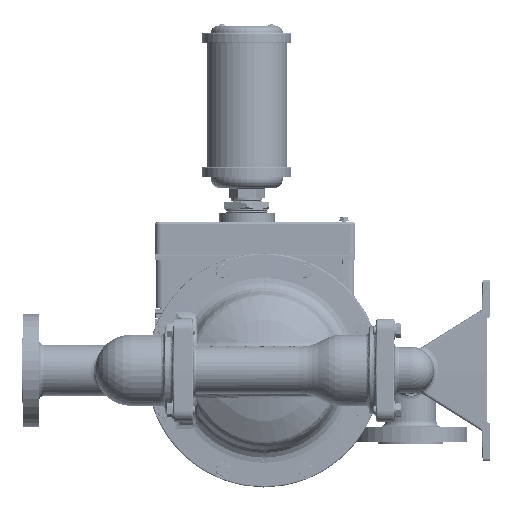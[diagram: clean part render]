
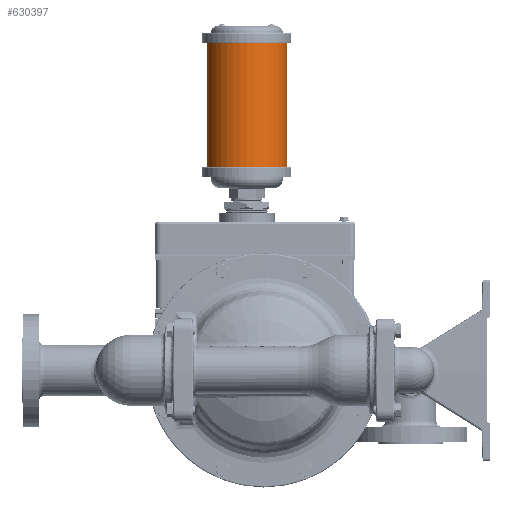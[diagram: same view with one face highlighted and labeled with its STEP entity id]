
A CAD part, left-side view. The second image highlights one B-rep face of the part: STEP entity #630397.
In plain terms, the highlighted cylindrical face has radius 45.339 mm (diameter 90.678 mm), a partial arc.
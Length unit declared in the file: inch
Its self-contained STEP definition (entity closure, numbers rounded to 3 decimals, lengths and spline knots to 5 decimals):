
#109265=DIRECTION('',(0.,0.,1.));
#109266=VECTOR('',#109265,5.5);
#109267=CARTESIAN_POINT('',(0.,2.535,8.983));
#109268=LINE('',#109267,#109266);
#109269=DIRECTION('',(0.,0.,1.));
#109270=VECTOR('',#109269,5.5);
#109271=CARTESIAN_POINT('',(0.,-1.035,8.983));
#109272=LINE('',#109271,#109270);
#109273=CARTESIAN_POINT('',(0.,0.75,8.983));
#109274=DIRECTION('',(0.,0.,1.));
#109275=DIRECTION('',(0.,1.,0.));
#109276=AXIS2_PLACEMENT_3D('',#109273,#109274,#109275);
#109298=CARTESIAN_POINT('',(0.,0.75,14.483));
#109299=DIRECTION('',(0.,0.,1.));
#109300=DIRECTION('',(0.,1.,0.));
#109301=AXIS2_PLACEMENT_3D('',#109298,#109299,#109300);
#550439=CARTESIAN_POINT('',(0.,2.535,8.983));
#550440=CARTESIAN_POINT('',(0.,2.535,14.483));
#550441=VERTEX_POINT('',#550439);
#550442=VERTEX_POINT('',#550440);
#550443=CARTESIAN_POINT('',(0.,-1.035,8.983));
#550444=CARTESIAN_POINT('',(0.,-1.035,14.483));
#550445=VERTEX_POINT('',#550443);
#550446=VERTEX_POINT('',#550444);
#630383=CARTESIAN_POINT('',(0.,0.75,15.592));
#630384=DIRECTION('',(0.,0.,-1.));
#630385=DIRECTION('',(0.,-1.,0.));
#630386=AXIS2_PLACEMENT_3D('',#630383,#630384,#630385);
#630387=CYLINDRICAL_SURFACE('',#630386,1.785);
#630389=ORIENTED_EDGE('',*,*,#630388,.T.);
#630391=ORIENTED_EDGE('',*,*,#630390,.T.);
#630393=ORIENTED_EDGE('',*,*,#630392,.F.);
#630394=ORIENTED_EDGE('',*,*,#630364,.F.);
#630395=EDGE_LOOP('',(#630389,#630391,#630393,#630394));
#630396=FACE_OUTER_BOUND('',#630395,.F.);
#109277=CIRCLE('',#109276,1.785);
#109302=CIRCLE('',#109301,1.785);
#630364=EDGE_CURVE('',#550441,#550445,#109277,.T.);
#630388=EDGE_CURVE('',#550441,#550442,#109268,.T.);
#630390=EDGE_CURVE('',#550442,#550446,#109302,.T.);
#630392=EDGE_CURVE('',#550445,#550446,#109272,.T.);
#630397=ADVANCED_FACE('',(#630396),#630387,.T.);
